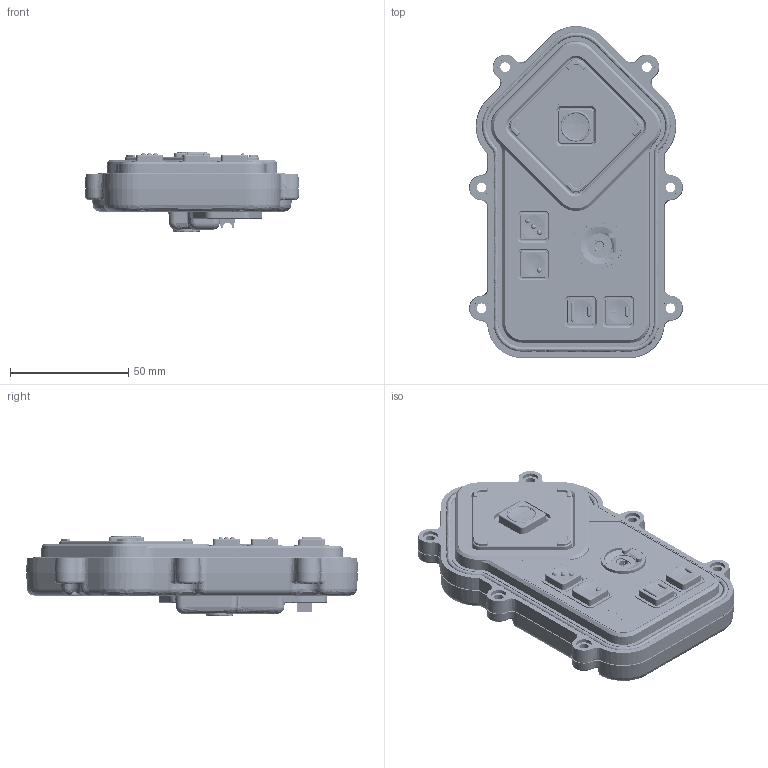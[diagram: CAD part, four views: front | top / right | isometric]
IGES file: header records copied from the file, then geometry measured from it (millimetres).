
Start section: SolidWorks IGES file using NURBS representation for surfaces
Global section: file name: C:\Users\anthonyc\Desktop\AudioNav EF\1409-34003~1 Horizontal.IGS; native system: SolidWorks 2018; preprocessor: SolidWorks 2018; author: AnthonyC; date: 190808.112950; units: millimetre
Bounding box: 90.63 x 140.52 x 33.94 mm (x, y, z)
Surface area: 70267.7 mm2 (no closed solid volume)
Topology: 0 solids, 0 shells, 3417 faces, 32541 edges, 32397 vertices
Faces by surface type: bspline 3417
